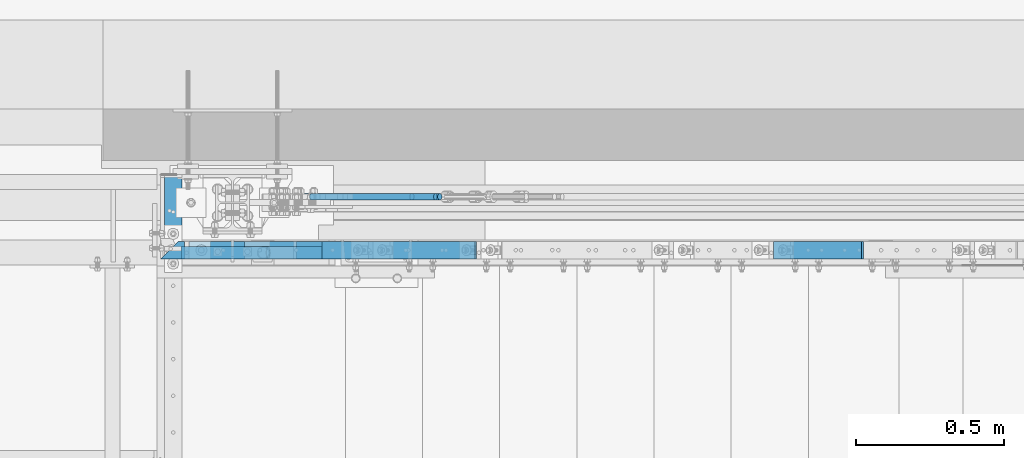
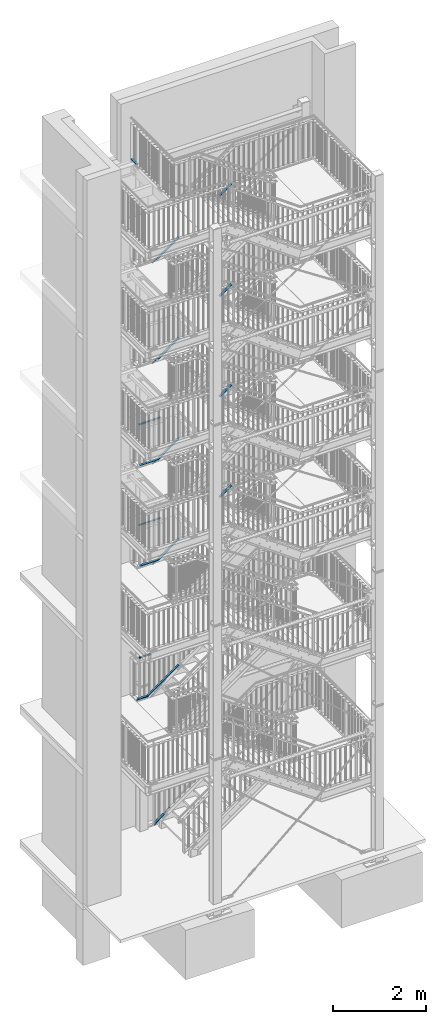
# One storey, part 140 of 831: 16 members, 8 beams, 2 openings.
"""IFC2X3 building model written with IfcOpenShell, lengths in millimetres."""

from ifc_helpers import new_model, entity, si_unit, converted_unit, frame, origin, origin_with_axes, origin_2d, place, context, project, spatial, polyline, rectangle, circle, hollow_circle, outline, extrude, clip, halfspace, material, element, save


model = new_model("IFC2X3")

# Units and contexts
model_context = context("Model", 3, precision=1e-09, world=origin_with_axes())
ifc_project = project(units=[si_unit("LENGTHUNIT", "METRE", prefix="MILLI"), si_unit("AREAUNIT", "SQUARE_METRE"), si_unit("VOLUMEUNIT", "CUBIC_METRE"), converted_unit("PLANEANGLEUNIT", "DEGREE", entity("IfcPlaneAngleMeasure", 0.01745329), si_unit("PLANEANGLEUNIT", "RADIAN"), dimensions=[0, 0, 0, 0, 0, 0, 0])], contexts=[model_context])

# Site, building, storey
site_placement = place(None, origin_with_axes())
site = spatial("IfcSite", under=ifc_project, at=site_placement, Name="Site", CompositionType="ELEMENT")
building_placement = place(site_placement, origin_with_axes())
building = spatial("IfcBuilding", under=site, at=building_placement, Name="Struktur 1", CompositionType="ELEMENT")
storey_placement = place(building_placement, origin_with_axes())
storey = spatial("IfcBuildingStorey", under=building, at=storey_placement, Name="Default Storey", CompositionType="ELEMENT", Elevation=0.0)

# Members
ifc_material = material(Name="S235JR")
member_1_placement = place(None, frame((5161.711739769, 7356.736971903, 12644.949833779), z_axis=(-0.810033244, 0.0, -0.586383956), x_axis=(0.586383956, 0.0, -0.810033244)))
element("IfcMember", 1, at=member_1_placement, inside=storey, material=ifc_material, Name="Railing_Kneerail_Stair#2", ObjectType="Railing_Kneerail_Stair#2", context=model_context, shape_type="SweptSolid", body=[
    extrude(rectangle(XDim=10.0, YDim=60.0, at=origin_2d()), origin(), (0.0, 0.0, -1.0), 635.245392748),
])
member_2_placement = place(None, frame((6682.145608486, 7356.736971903, 13745.593582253), z_axis=(-0.810033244, 0.0, -0.586383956), x_axis=(0.586383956, 0.0, -0.810033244)))
element("IfcMember", 2, at=member_2_placement, inside=storey, material=ifc_material, Name="Railing_Kneerail_Stair#4", ObjectType="Railing_Kneerail_Stair#4", context=model_context, shape_type="SweptSolid", body=[
    extrude(rectangle(XDim=10.0, YDim=60.0, at=origin_2d()), origin(), (0.0, 0.0, -1.0), 366.579920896),
])
member_3_placement = place(None, frame((5161.489133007, 7356.736971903, 15279.941905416), z_axis=(-0.811618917, 0.0, -0.584187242), x_axis=(0.584187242, 0.0, -0.811618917)))
element("IfcMember", 3, at=member_3_placement, inside=storey, material=ifc_material, Name="Railing_Kneerail_Stair#2", ObjectType="Railing_Kneerail_Stair#2", context=model_context, shape_type="SweptSolid", body=[
    extrude(rectangle(XDim=10.0, YDim=60.0, at=origin_2d()), origin(), (0.0, 0.0, -1.0), 634.29211171),
])
member_4_placement = place(None, frame((6682.134624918, 7356.736971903, 16374.472451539), z_axis=(-0.811618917, 0.0, -0.584187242), x_axis=(0.584187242, 0.0, -0.811618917)))
element("IfcMember", 4, at=member_4_placement, inside=storey, material=ifc_material, Name="Railing_Kneerail_Stair#4", ObjectType="Railing_Kneerail_Stair#4", context=model_context, shape_type="SweptSolid", body=[
    extrude(rectangle(XDim=10.0, YDim=60.0, at=origin_2d()), origin(), (0.0, 0.0, -1.0), 365.611618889),
])

# Member, opening
member_5_placement = place(None, frame((5074.778509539, 7356.736971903, 519.607130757), z_axis=(-0.814635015, 0.0, -0.579973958), x_axis=(0.579973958, 0.0, -0.814635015)))
member_5 = element("IfcMember", 5, at=member_5_placement, inside=storey, material=ifc_material, Name="Railing_Kneerail_Stair#1", ObjectType="Railing_Kneerail_Stair#1", context=model_context, shape_type="SweptSolid", body=[
    extrude(rectangle(XDim=10.0, YDim=60.0, at=origin_2d()), origin(), (0.0, 0.0, -1.0), 290.356403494),
])
opening_1_placement = place(member_5_placement, frame((713.438579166, 0.0, 212.227858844), z_axis=(-0.817517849, 0.0, -0.575903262), x_axis=(0.575903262, 0.0, -0.817517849)))
element("IfcOpeningElement", 6, at=opening_1_placement, cuts=member_5, ObjectType="Opening", context=model_context, shape_type="SweptSolid", body=[
    extrude(outline(polyline([(-1139.998789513, -30.001), (-1139.998789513, 30.001), (-1155.000789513, 30.001), (-1155.000789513, -30.001), (-1139.998789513, -30.001)])), origin(), (0.0, 0.0, 1.0), 128.657025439),
])

# Members
for number, where, z_axis, x_axis in (
    (7, (5175.77704378, 7536.736971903, 334.665259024), (-0.757867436, 0.0, -0.652408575), (0.652408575, 0.0, -0.757867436)),
    (8, (5121.635480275, 7536.736971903, 7158.869502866), (-0.836004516, 0.0, -0.548722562), (0.548722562, 0.0, -0.836004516)),
    (9, (5082.966649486, 7536.736971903, 3707.954491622), (-0.755906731, 0.0, -0.654679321), (0.654679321, 0.0, -0.755906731)),
    (10, (5121.750048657, 7536.736971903, 9790.6945381), (-0.836491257, 0.0, -0.54798027), (0.54798027, 0.0, -0.836491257)),
    (11, (5121.538067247, 7536.736971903, 12418.018198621), (-0.835719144, 0.0, -0.549157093), (0.549157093, 0.0, -0.835719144)),
    (12, (5121.992412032, 7536.736971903, 15052.324436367), (-0.837153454, 0.0, -0.546968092), (0.546968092, 0.0, -0.837153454)),
):
    element("IfcMember", number, at=place(None, frame(where, z_axis=z_axis, x_axis=x_axis)), inside=storey, material=ifc_material, Name="-", ObjectType="-", context=model_context, shape_type="SweptSolid", body=[
        extrude(circle(Radius=11.0, at=origin_2d()), origin(), (0.0, 0.0, -1.0), 500.0),
    ])

# Beams
beam_1_placement = place(None, frame((4683.413402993, 7347.936971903, 4987.0), z_axis=(-1.0, 0.0, 0.0), x_axis=(0.0, 0.0, -1.0)))
element("IfcBeam", 13, at=beam_1_placement, inside=storey, material=ifc_material, Name="Railing_Handrail_Landing#2", ObjectType="Railing_Handrail_Landing#2", context=model_context, shape_type="Clipping", body=[
    clip(extrude(hollow_circle(Radius=21.2, WallThickness=3.2, at=origin_2d()), origin(), (0.0, 0.0, -1.0), 324.745706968), halfspace(frame((3102.216720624, 7347.936971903, -1274.657844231), z_axis=(0.301609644, 0.0, 0.953431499), x_axis=(0.0, 1.0, 0.0)), True)),
])
beam_2_placement = place(None, frame((4601.201776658, 7356.736971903, 3912.0), z_axis=(-1.0, 0.0, 0.0), x_axis=(0.0, 0.0, -1.0)))
element("IfcBeam", 14, at=beam_2_placement, inside=storey, material=ifc_material, Name="Railing_Kneerail_Landing#0", ObjectType="Railing_Kneerail_Landing#0", context=model_context, shape_type="Clipping", body=[
    clip(extrude(rectangle(XDim=10.0, YDim=60.0, at=origin_2d()), origin(), (0.0, 0.0, -1.0), 93.011626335), halfspace(frame((3912.0, 6000.475894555, 5957.462854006), z_axis=(0.0, 0.707106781, -0.707106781), x_axis=(0.0, -0.707106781, -0.707106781)), True)),
])
beam_3_placement = place(None, frame((4709.213402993, 7356.736971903, 3912.0), z_axis=(-1.0, 0.0, 0.0), x_axis=(0.0, 0.0, -1.0)))
element("IfcBeam", 15, at=beam_3_placement, inside=storey, material=ifc_material, Name="Railing_Kneerail_Landing#1", ObjectType="Railing_Kneerail_Landing#1", context=model_context, shape_type="SweptSolid", body=[
    extrude(rectangle(XDim=10.0, YDim=60.0, at=origin_2d()), origin(), (0.0, 0.0, -1.0), 188.460062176),
])

# Member
member_6_placement = place(None, frame((4900.549106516, 7356.736971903, 3912.909683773), z_axis=(-0.818063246, 0.0, -0.575128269), x_axis=(0.575128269, 0.0, -0.818063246)))
element("IfcMember", 16, at=member_6_placement, inside=storey, material=ifc_material, Name="Railing_Kneerail_Stair#2", ObjectType="Railing_Kneerail_Stair#2", context=model_context, shape_type="SweptSolid", body=[
    extrude(rectangle(XDim=10.0, YDim=60.0, at=origin_2d()), origin(), (0.0, 0.0, -1.0), 948.323741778),
])

# Beam, opening
beam_4_placement = place(None, frame((4656.713402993, 7361.736971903, 17899.0), z_axis=(0.0, -1.0, 0.0), x_axis=(0.0, 0.0, -1.0)))
beam_4 = element("IfcBeam", 17, at=beam_4_placement, inside=storey, material=ifc_material, Name="Railing_Kneerail_Landing#8", ObjectType="Railing_Kneerail_Landing#8", context=model_context, shape_type="SweptSolid", body=[
    extrude(rectangle(XDim=10.0, YDim=60.0, at=origin_2d()), origin(), (0.0, 0.0, -1.0), 250.0),
])
opening_2_placement = place(beam_4_placement, frame((60.0, 0.0, -250.0), z_axis=(-1.0, 0.0, 0.0), x_axis=(0.0, 1.0, 0.0)))
element("IfcOpeningElement", 18, at=opening_2_placement, cuts=beam_4, ObjectType="Opening", context=model_context, shape_type="SweptSolid", body=[
    extrude(outline(polyline([(30.001, -242.499), (-30.001, -242.499), (-30.001, -257.501), (30.001, -257.501), (30.001, -242.499)])), origin(), (0.0, 0.0, 1.0), 120.0),
])

# Beams
beam_5_placement = place(None, frame((4683.413402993, 7347.936971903, 8460.0), z_axis=(-1.0, 0.0, 0.0), x_axis=(0.0, 0.0, -1.0)))
element("IfcBeam", 19, at=beam_5_placement, inside=storey, material=ifc_material, Name="Railing_Handrail_Landing#2", ObjectType="Railing_Handrail_Landing#2", context=model_context, shape_type="Clipping", body=[
    clip(extrude(hollow_circle(Radius=21.2, WallThickness=3.2, at=origin_2d()), origin(), (0.0, 0.0, -1.0), 584.812622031), halfspace(frame((6123.567620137, 7347.936971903, -2535.278709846), z_axis=(0.307936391, 0.0, 0.951406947), x_axis=(0.0, 1.0, 0.0)), True)),
])
beam_6_placement = place(None, frame((4709.213402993, 7356.736971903, 7385.0), z_axis=(-1.0, 0.0, 0.0), x_axis=(0.0, 0.0, -1.0)))
element("IfcBeam", 20, at=beam_6_placement, inside=storey, material=ifc_material, Name="Railing_Kneerail_Landing#1", ObjectType="Railing_Kneerail_Landing#1", context=model_context, shape_type="SweptSolid", body=[
    extrude(rectangle(XDim=10.0, YDim=60.0, at=origin_2d()), origin(), (0.0, 0.0, -1.0), 449.524355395),
])

# Members
member_7_placement = place(None, frame((5161.667486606, 7356.736971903, 7385.94824821), z_axis=(-0.810350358, 0.0, -0.585945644), x_axis=(0.585945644, 0.0, -0.810350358)))
element("IfcMember", 21, at=member_7_placement, inside=storey, material=ifc_material, Name="Railing_Kneerail_Stair#2", ObjectType="Railing_Kneerail_Stair#2", context=model_context, shape_type="SweptSolid", body=[
    extrude(rectangle(XDim=10.0, YDim=60.0, at=origin_2d()), origin(), (0.0, 0.0, -1.0), 635.054116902),
])
member_8_placement = place(None, frame((6682.143416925, 7356.736971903, 8485.369305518), z_axis=(-0.810350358, 0.0, -0.585945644), x_axis=(0.585945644, 0.0, -0.810350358)))
element("IfcMember", 22, at=member_8_placement, inside=storey, material=ifc_material, Name="Railing_Kneerail_Stair#4", ObjectType="Railing_Kneerail_Stair#4", context=model_context, shape_type="SweptSolid", body=[
    extrude(rectangle(XDim=10.0, YDim=60.0, at=origin_2d()), origin(), (0.0, 0.0, -1.0), 366.386282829),
])

# Beams
beam_7_placement = place(None, frame((4683.413402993, 7347.936971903, 11092.0), z_axis=(-1.0, 0.0, 0.0), x_axis=(0.0, 0.0, -1.0)))
element("IfcBeam", 23, at=beam_7_placement, inside=storey, material=ifc_material, Name="Railing_Handrail_Landing#2", ObjectType="Railing_Handrail_Landing#2", context=model_context, shape_type="Clipping", body=[
    clip(extrude(hollow_circle(Radius=21.2, WallThickness=3.2, at=origin_2d()), origin(), (0.0, 0.0, -1.0), 584.808022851), halfspace(frame((8510.835770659, 7347.936971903, -3303.709290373), z_axis=(0.307506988, 0.0, 0.951545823), x_axis=(0.0, 1.0, 0.0)), True)),
])
beam_8_placement = place(None, frame((4709.213402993, 7356.736971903, 10017.0), z_axis=(-1.0, 0.0, 0.0), x_axis=(0.0, 0.0, -1.0)))
element("IfcBeam", 24, at=beam_8_placement, inside=storey, material=ifc_material, Name="Railing_Kneerail_Landing#1", ObjectType="Railing_Kneerail_Landing#1", context=model_context, shape_type="SweptSolid", body=[
    extrude(rectangle(XDim=10.0, YDim=60.0, at=origin_2d()), origin(), (0.0, 0.0, -1.0), 449.453961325),
])

# Members
member_9_placement = place(None, frame((5161.593434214, 7356.736971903, 10017.945605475), z_axis=(-0.810878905, 0.0, -0.585213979), x_axis=(0.585213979, 0.0, -0.810878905)))
element("IfcMember", 25, at=member_9_placement, inside=storey, material=ifc_material, Name="Railing_Kneerail_Stair#2", ObjectType="Railing_Kneerail_Stair#2", context=model_context, shape_type="SweptSolid", body=[
    extrude(rectangle(XDim=10.0, YDim=60.0, at=origin_2d()), origin(), (0.0, 0.0, -1.0), 634.7360112),
])
member_10_placement = place(None, frame((6682.139758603, 7356.736971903, 11115.328900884), z_axis=(-0.810878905, 0.0, -0.585213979), x_axis=(0.585213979, 0.0, -0.810878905)))
element("IfcMember", 26, at=member_10_placement, inside=storey, material=ifc_material, Name="Railing_Kneerail_Stair#4", ObjectType="Railing_Kneerail_Stair#4", context=model_context, shape_type="SweptSolid", body=[
    extrude(rectangle(XDim=10.0, YDim=60.0, at=origin_2d()), origin(), (0.0, 0.0, -1.0), 366.06352817),
])

save(model, "model.ifc")
